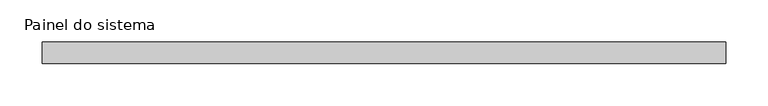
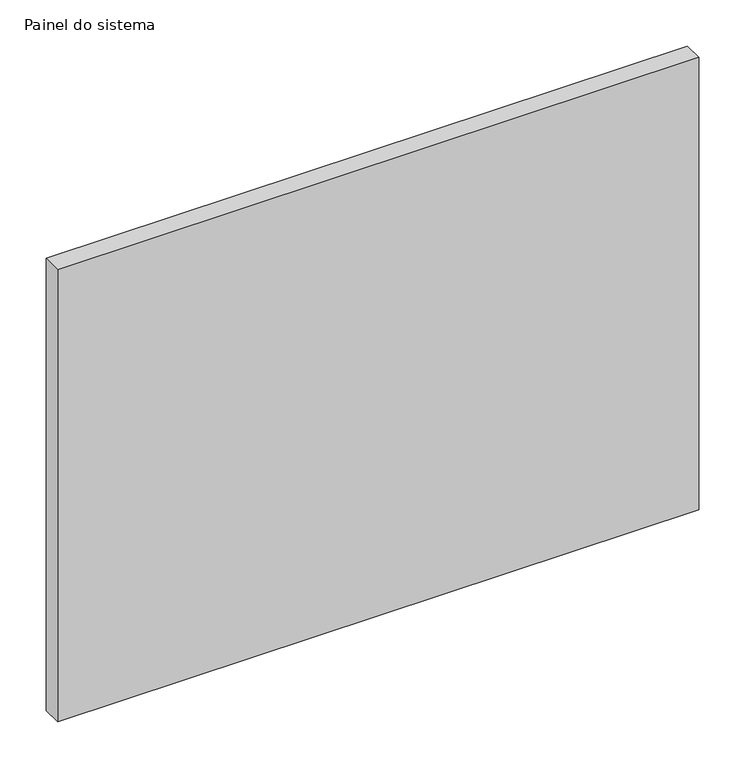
"""IFC4 building model written with IfcOpenShell, lengths in millimetres: plate geometry, Painel do sistema : Envidraçado."""

import ifcopenshell
import ifcopenshell.guid

model = None  # the IFC model being written
_history = None  # IfcOwnerHistory: only IFC2X3 demands one
_inside = {}  # id of a spatial element -> (the spatial element, [elements in it])
_under = {}  # id of a project, library or spatial element -> (it, [spatial elements below it])
_declared = {}  # id of a project -> (the project, [libraries it declares])
_typed = {}  # id of a type object -> (the type object, [elements of that type])
_made_of = {}  # id of a material, layer set ... -> (it, [elements and type objects made of it])


def new_model(schema):
    """Start an empty IFC model of exactly this schema.

    Asked for "IFC4X3", IfcOpenShell would pick the latest addendum, in which some entities
    have other attributes; the version numbers below select the first issue.
    IFC2X3 requires an IfcOwnerHistory on every rooted entity: one is made here for all.
    """
    global model, _history
    if schema == "IFC4X3":
        model = ifcopenshell.file(schema_version=(4, 3, 0, 0))
    else:
        model = ifcopenshell.file(schema=schema)
    _inside.clear()
    _under.clear()
    _declared.clear()
    _typed.clear()
    _made_of.clear()
    _history = None
    if model.schema == "IFC2X3":
        org = make("IfcOrganization", Name="unknown")
        user = make(
            "IfcPersonAndOrganization",
            ThePerson=make("IfcPerson", FamilyName="unknown"),
            TheOrganization=org,
        )
        app = make(
            "IfcApplication",
            ApplicationDeveloper=org,
            Version="unknown",
            ApplicationFullName="unknown",
            ApplicationIdentifier="unknown",
        )
        _history = make(
            "IfcOwnerHistory",
            OwningUser=user,
            OwningApplication=app,
            ChangeAction="ADDED",
            CreationDate=0,
        )
    return model


def make(cls, **values):
    """One entity of the class cls with the attributes given. An attribute that is None is left unset."""
    return model.create_entity(
        cls, **{name: value for name, value in values.items() if value is not None}
    )


def rooted(cls, **values):
    """An entity with a GlobalId (a new one), such as an element, a storey or a relation."""
    return make(cls, GlobalId=ifcopenshell.guid.new(), OwnerHistory=_history, **values)


def si_unit(unit_type, name, prefix=None):
    """IfcSIUnit, for example si_unit("LENGTHUNIT", "METRE", prefix="MILLI")."""
    return make("IfcSIUnit", UnitType=unit_type, Prefix=prefix, Name=name)


def assignment(units):
    """IfcUnitAssignment: the units of a project."""
    return None if units is None else make("IfcUnitAssignment", Units=units)


def point(xyz):
    """IfcCartesianPoint."""
    return None if xyz is None else make("IfcCartesianPoint", Coordinates=xyz)


def direction(xyz):
    """IfcDirection."""
    return None if xyz is None else make("IfcDirection", DirectionRatios=xyz)


def frame(location, z_axis=None, x_axis=None):
    """IfcAxis2Placement3D, a coordinate frame: its origin and axes. An axis left out is left unset."""
    return make(
        "IfcAxis2Placement3D",
        Location=point(location),
        Axis=direction(z_axis),
        RefDirection=direction(x_axis),
    )


def origin():
    """The frame at (0, 0, 0) with its axes left unset."""
    return frame((0.0, 0.0, 0.0))


def origin_with_axes():
    """The frame at (0, 0, 0) with the z axis (0, 0, 1) and the x axis (1, 0, 0) written out."""
    return frame((0.0, 0.0, 0.0), z_axis=(0.0, 0.0, 1.0), x_axis=(1.0, 0.0, 0.0))


def place(relative_to, where):
    """IfcLocalPlacement: puts the frame where relative to a parent placement (None: the world)."""
    return make(
        "IfcLocalPlacement", PlacementRelTo=relative_to, RelativePlacement=where
    )


def context(
    kind, dimensions, precision=None, world=None, true_north=None, identifier=None
):
    """IfcGeometricRepresentationContext, for example the 3D "Model" context."""
    return make(
        "IfcGeometricRepresentationContext",
        ContextIdentifier=identifier,
        ContextType=kind,
        CoordinateSpaceDimension=dimensions,
        Precision=precision,
        WorldCoordinateSystem=world,
        TrueNorth=true_north,
    )


def project(units=None, contexts=None):
    """IfcProject with its units and contexts."""
    return rooted(
        "IfcProject",
        Name="project",
        RepresentationContexts=contexts,
        UnitsInContext=assignment(units),
    )


def spatial(cls, under=None, at=None, **own):
    """A site, building, storey or space (cls), placed at a placement, below another one or the project."""
    s = rooted(cls, ObjectPlacement=at, **own)
    if under is not None:
        _under.setdefault(under.id(), (under, []))[1].append(s)
    return s


def polyline(points):
    """IfcPolyline through the points."""
    return make("IfcPolyline", Points=[point(p) for p in points])


def outline(outer, holes=None, kind="AREA"):
    """IfcArbitraryClosedProfileDef: a profile drawn as a closed curve; with holes, ...WithVoids."""
    if holes is None:
        return make("IfcArbitraryClosedProfileDef", ProfileType=kind, OuterCurve=outer)
    return make(
        "IfcArbitraryProfileDefWithVoids",
        ProfileType=kind,
        OuterCurve=outer,
        InnerCurves=holes,
    )


def extrude(swept, where, along, depth):
    """IfcExtrudedAreaSolid: the profile swept, set in the frame where, extruded along a direction by depth."""
    return make(
        "IfcExtrudedAreaSolid",
        SweptArea=swept,
        Position=where,
        ExtrudedDirection=direction(along),
        Depth=depth,
    )


def shape(context_of_items, identifier, shape_type, items):
    """IfcShapeRepresentation: the items that make up one representation, for example the "Body"."""
    return make(
        "IfcShapeRepresentation",
        ContextOfItems=context_of_items,
        RepresentationIdentifier=identifier,
        RepresentationType=shape_type,
        Items=items,
    )


def source(mapping_origin, context_of_items, identifier, shape_type, items):
    """IfcRepresentationMap: a shape defined once, which mapped items show again and again."""
    return make(
        "IfcRepresentationMap",
        MappingOrigin=mapping_origin,
        MappedRepresentation=shape(context_of_items, identifier, shape_type, items),
    )


def transform(
    local_origin,
    x_axis=None,
    y_axis=None,
    z_axis=None,
    scale=None,
    scale2=None,
    scale3=None,
    uniform=True,
):
    """IfcCartesianTransformationOperator3D, or its non-uniform kind. x_axis, y_axis, z_axis: its Axis1, 2, 3."""
    if uniform:
        return make(
            "IfcCartesianTransformationOperator3D",
            Axis1=direction(x_axis),
            Axis2=direction(y_axis),
            LocalOrigin=point(local_origin),
            Scale=scale,
            Axis3=direction(z_axis),
        )
    return make(
        "IfcCartesianTransformationOperator3DnonUniform",
        Axis1=direction(x_axis),
        Axis2=direction(y_axis),
        LocalOrigin=point(local_origin),
        Scale=scale,
        Axis3=direction(z_axis),
        Scale2=scale2,
        Scale3=scale3,
    )


def mapped(mapping_source, mapping_target):
    """IfcMappedItem: shows the shape of a source again, moved by a transform."""
    return make(
        "IfcMappedItem", MappingSource=mapping_source, MappingTarget=mapping_target
    )


def made_of(thing, what):
    """Note that an element or type object is made of a material, layer set ...; save() writes the relation."""
    if what is not None:
        _made_of.setdefault(what.id(), (what, []))[1].append(thing)
    return thing


def element(
    cls,
    number,
    at=None,
    inside=None,
    cuts=None,
    type_object=None,
    material=None,
    context=None,
    identifier="Body",
    shape_type=None,
    held_by="IfcProductDefinitionShape",
    body=None,
    shapes=None,
    **own,
):
    """One element of the class cls, such as IfcWall. Its Tag is "e" and its number.

    at: its placement. inside: the storey or other place that contains it. cuts: it is an
    opening in that element (IfcRelVoidsElement). A single representation is given by context,
    identifier, shape_type and body (its items); several are given by shapes. held_by: the class
    of the entity that holds the representations. save() writes the other relations.
    """
    e = rooted(cls, Tag="e%d" % number, ObjectPlacement=at, **own)
    if body is not None:
        shapes = [shape(context, identifier, shape_type, body)]
    if shapes is not None:
        e.Representation = make(held_by, Representations=shapes)
    if inside is not None:
        _inside.setdefault(inside.id(), (inside, []))[1].append(e)
    if cuts is not None:
        rooted(
            "IfcRelVoidsElement", RelatingBuildingElement=cuts, RelatedOpeningElement=e
        )
    if type_object is not None:
        _typed.setdefault(type_object.id(), (type_object, []))[1].append(e)
    return made_of(e, material)


def aggregate(whole, parts):
    """IfcRelAggregates: a whole, such as a stair, and the parts it consists of."""
    return rooted("IfcRelAggregates", RelatingObject=whole, RelatedObjects=parts)


def save(model, path):
    """Write the relations noted so far, then the file.

    IfcRelAggregates (storeys below a building ...), IfcRelContainedInSpatialStructure (elements
    in a storey), IfcRelDefinesByType, IfcRelAssociatesMaterial and IfcRelDeclares: one each for
    every whole, place, type object, material and project.
    """
    for whole, parts in _under.values():
        aggregate(whole, parts)
    for where, things in _inside.values():
        rooted(
            "IfcRelContainedInSpatialStructure",
            RelatedElements=things,
            RelatingStructure=where,
        )
    for kind, things in _typed.values():
        rooted("IfcRelDefinesByType", RelatedObjects=things, RelatingType=kind)
    for what, things in _made_of.values():
        rooted("IfcRelAssociatesMaterial", RelatedObjects=things, RelatingMaterial=what)
    for by, libraries in _declared.values():
        rooted("IfcRelDeclares", RelatingContext=by, RelatedDefinitions=libraries)
    model.write(path)


def painel_do_sistema_9169c861(model_context):
    return source(origin(), model_context, "Body", "SweptSolid", [
        extrude(outline(polyline([(402.5, 24.5), (-402.5, 24.5), (-402.5, 49.5), (402.5, 49.5), (402.5, 24.5)])), origin_with_axes(), (0.0, 0.0, 1.0), 600.0),
    ])


if __name__ == "__main__":
    model = new_model("IFC4")
    model_context = context("Model", 3, world=origin())
    ifc_project = project(units=[si_unit("LENGTHUNIT", "METRE", prefix="MILLI")], contexts=[model_context])
    site = spatial("IfcSite", under=ifc_project)
    building = spatial("IfcBuilding", under=site)
    placement = place(None, origin())
    painel_do_sistema_shape = painel_do_sistema_9169c861(model_context)
    element("IfcPlate", 1, ObjectType="Painel do sistema : Envidraçado", at=placement, inside=building, context=model_context, shape_type="MappedRepresentation", body=[
        mapped(painel_do_sistema_shape, transform((0.0, 0.0, 0.0), x_axis=(1.0, 0.0, 0.0), y_axis=(0.0, 1.0, 0.0), z_axis=(0.0, 0.0, 1.0))),
    ])
    save(model, "model.ifc")
